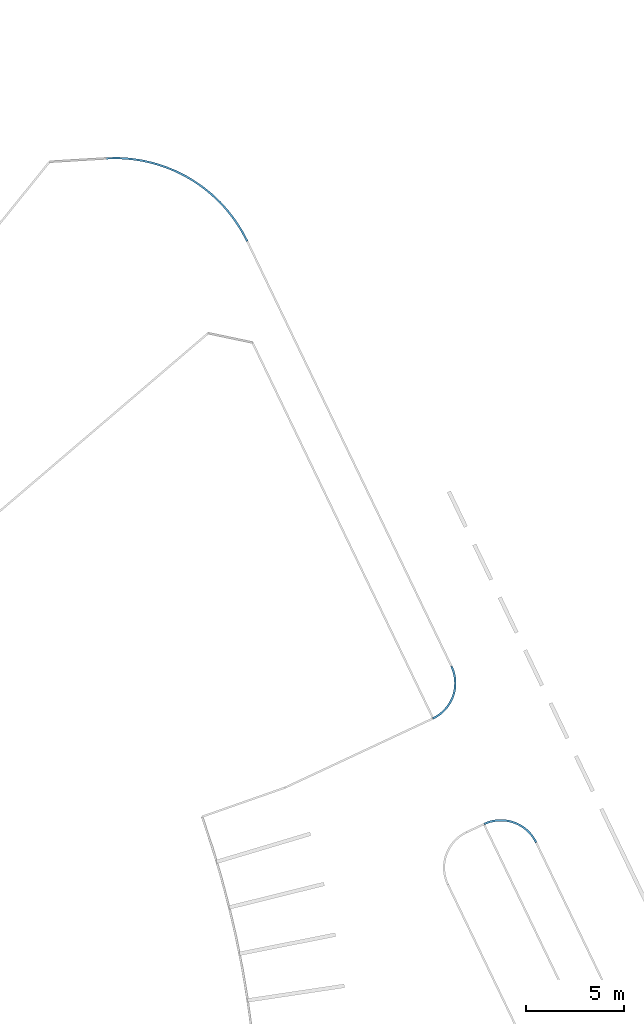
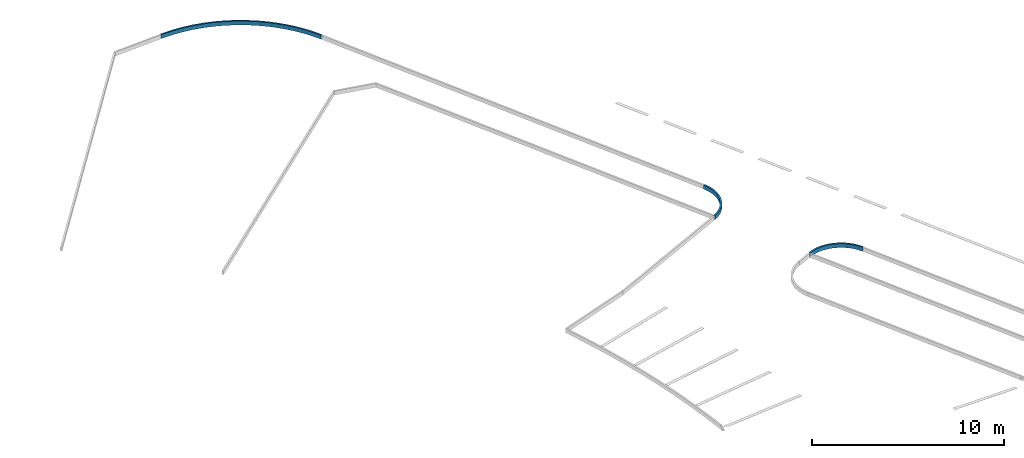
# One storey, part 118 of 157: 3 beams.
"""IFC2X3 building model written with IfcOpenShell, lengths in millimetres."""

from ifc_helpers import new_model, entity, si_unit, converted_unit, derived_unit, direction, frame, origin, place, context, subcontext, project, spatial, faceted_brep, material, type_object, element, save


model = new_model("IFC2X3")

# Units and contexts
model_context = context("Model", 3, precision=0.01, world=origin(), true_north=direction((6.123031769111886e-17, 1.0)))
body_context = subcontext(model_context, "Body", "Model", "MODEL_VIEW")
ifc_project = project(units=[si_unit("LENGTHUNIT", "METRE", prefix="MILLI"), si_unit("AREAUNIT", "SQUARE_METRE"), si_unit("VOLUMEUNIT", "CUBIC_METRE"), converted_unit("PLANEANGLEUNIT", "DEGREE", entity("IfcRatioMeasure", 0.017453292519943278), si_unit("PLANEANGLEUNIT", "RADIAN"), dimensions=[0, 0, 0, 0, 0, 0, 0]), si_unit("MASSUNIT", "GRAM", prefix="KILO"), derived_unit("MASSDENSITYUNIT", [(si_unit("MASSUNIT", "GRAM", prefix="KILO"), 1), (si_unit("LENGTHUNIT", "METRE"), -3)]), derived_unit("MOMENTOFINERTIAUNIT", [(si_unit("LENGTHUNIT", "METRE"), 4)]), si_unit("TIMEUNIT", "SECOND"), si_unit("FREQUENCYUNIT", "HERTZ"), si_unit("THERMODYNAMICTEMPERATUREUNIT", "DEGREE_CELSIUS"), derived_unit("THERMALTRANSMITTANCEUNIT", [(si_unit("MASSUNIT", "GRAM", prefix="KILO"), 1), (si_unit("THERMODYNAMICTEMPERATUREUNIT", "KELVIN"), -1), (si_unit("TIMEUNIT", "SECOND"), -3)]), derived_unit("THERMALCONDUCTANCEUNIT", [(si_unit("MASSUNIT", "GRAM", prefix="KILO"), 1), (si_unit("LENGTHUNIT", "METRE"), 1), (si_unit("THERMODYNAMICTEMPERATUREUNIT", "KELVIN"), -1), (si_unit("TIMEUNIT", "SECOND"), -3)]), derived_unit("VOLUMETRICFLOWRATEUNIT", [(si_unit("LENGTHUNIT", "METRE"), 3), (si_unit("TIMEUNIT", "SECOND"), -1)]), derived_unit("MASSFLOWRATEUNIT", [(si_unit("MASSUNIT", "GRAM", prefix="KILO"), 1), (si_unit("TIMEUNIT", "SECOND"), -1)]), derived_unit("ROTATIONALFREQUENCYUNIT", [(si_unit("TIMEUNIT", "SECOND"), -1)]), si_unit("ELECTRICCURRENTUNIT", "AMPERE"), si_unit("ELECTRICVOLTAGEUNIT", "VOLT"), si_unit("POWERUNIT", "WATT"), converted_unit("FORCEUNIT", "KIP", entity("IfcRatioMeasure", 2.088543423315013e-05), si_unit("FORCEUNIT", "NEWTON"), dimensions=[1, 1, -2, 0, 0, 0, 0]), si_unit("ILLUMINANCEUNIT", "LUX"), si_unit("LUMINOUSFLUXUNIT", "LUMEN"), si_unit("LUMINOUSINTENSITYUNIT", "CANDELA"), derived_unit("USERDEFINED", [(si_unit("MASSUNIT", "GRAM", prefix="KILO"), -1), (si_unit("LENGTHUNIT", "METRE"), -2), (si_unit("TIMEUNIT", "SECOND"), 3), (si_unit("LUMINOUSFLUXUNIT", "LUMEN"), 1)]), derived_unit("USERDEFINED", [(si_unit("MASSUNIT", "GRAM", prefix="KILO"), 1), (si_unit("LENGTHUNIT", "METRE"), 3), (si_unit("TIMEUNIT", "SECOND"), -3), (si_unit("ELECTRICCURRENTUNIT", "AMPERE"), -2)]), derived_unit("USERDEFINED", [(si_unit("LENGTHUNIT", "METRE"), 2), (si_unit("TIMEUNIT", "SECOND"), -2)]), derived_unit("SOUNDPOWERUNIT", [(si_unit("MASSUNIT", "GRAM", prefix="KILO"), 1), (si_unit("LENGTHUNIT", "METRE"), 2), (si_unit("TIMEUNIT", "SECOND"), -3)]), derived_unit("SOUNDPRESSUREUNIT", [(si_unit("MASSUNIT", "GRAM", prefix="KILO"), 1), (si_unit("LENGTHUNIT", "METRE"), -1), (si_unit("TIMEUNIT", "SECOND"), -2)]), derived_unit("LINEARVELOCITYUNIT", [(si_unit("LENGTHUNIT", "METRE"), 1), (si_unit("TIMEUNIT", "SECOND"), -1)]), si_unit("PRESSUREUNIT", "PASCAL"), derived_unit("USERDEFINED", [(si_unit("LENGTHUNIT", "METRE"), -2), (si_unit("MASSUNIT", "GRAM", prefix="KILO"), 1), (si_unit("TIMEUNIT", "SECOND"), -2)]), derived_unit("LINEARFORCEUNIT", [(si_unit("MASSUNIT", "GRAM", prefix="KILO"), 1), (si_unit("LENGTHUNIT", "METRE"), 1), (si_unit("TIMEUNIT", "SECOND"), -2), (si_unit("LENGTHUNIT", "METRE"), -1)]), derived_unit("PLANARFORCEUNIT", [(si_unit("MASSUNIT", "GRAM", prefix="KILO"), 1), (si_unit("LENGTHUNIT", "METRE"), 1), (si_unit("TIMEUNIT", "SECOND"), -2), (si_unit("LENGTHUNIT", "METRE"), -2)]), derived_unit("SPECIFICHEATCAPACITYUNIT", [(si_unit("LENGTHUNIT", "METRE"), 2), (si_unit("TIMEUNIT", "SECOND"), -2), (si_unit("THERMODYNAMICTEMPERATUREUNIT", "KELVIN"), -1)]), derived_unit("VAPORPERMEABILITYUNIT", [(si_unit("TIMEUNIT", "SECOND"), 1), (si_unit("LENGTHUNIT", "METRE"), -1)]), derived_unit("DYNAMICVISCOSITYUNIT", [(si_unit("MASSUNIT", "GRAM", prefix="KILO"), 1), (si_unit("LENGTHUNIT", "METRE"), -1), (si_unit("TIMEUNIT", "SECOND"), -1)]), derived_unit("THERMALEXPANSIONCOEFFICIENTUNIT", [(si_unit("THERMODYNAMICTEMPERATUREUNIT", "KELVIN"), -1)])], contexts=[model_context])

# Site, building, storey
site_placement = place(None, frame((0.0, 0.0, 0.0), z_axis=(0.0, 0.0, 1.0), x_axis=(0.8191520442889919, 0.5735764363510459, 0.0)))
site = spatial("IfcSite", under=ifc_project, at=site_placement, Name="Default", CompositionType="ELEMENT")
building_placement = place(site_placement, origin())
building = spatial("IfcBuilding", under=site, at=building_placement, CompositionType="ELEMENT")
storey_placement = place(building_placement, origin())
storey = spatial("IfcBuildingStorey", under=building, at=storey_placement, Name="1.EG +0.00", CompositionType="ELEMENT", Elevation=-4.331468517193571e-12)

# Beams
ifc_material = material(Name="Paveta_bordur")
beam_type_1 = type_object("IfcBeamType", Name="Beam-143", PredefinedType="NOTDEFINED")
beam_1_placement = place(storey_placement, frame((24529.94183142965, -59084.03622694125, 260.0)))
element("IfcBeam", 1, at=beam_1_placement, inside=storey, type_object=beam_type_1, material=ifc_material, Name="Beam-143:Beam-143", ObjectType="Beam-143:Beam-143", context=body_context, shape_type="Brep", body=[
    faceted_brep([(3453.7379577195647, 17.81459195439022, 250.0), (3453.7379577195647, 17.81459195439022, 0.0), (3552.413859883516, 1.5952722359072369, 0.0), (3552.413859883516, 1.5952722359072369, 250.0), (53.93368868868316, 7659.485015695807, 0.0), (1.5952722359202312, 7574.275332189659, 0.0), (1.5952722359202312, 7574.275332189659, 250.0), (53.93368868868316, 7659.485015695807, 250.0), (2020.2235835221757, 5751.82134745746, 0.0), (1830.7533936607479, 5989.375032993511, 0.0), (1631.7538229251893, 6219.0049030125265, 0.0), (1423.5559153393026, 6440.328958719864, 0.0), (1206.5060167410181, 6652.979018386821, 0.0), (980.9651986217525, 6856.601329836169, 0.0), (747.3086574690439, 7050.857158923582, 0.0), (505.925090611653, 7235.4233530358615, 0.0), (257.21604960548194, 7409.992878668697, 0.0), (565.0330348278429, 7316.08468782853, 0.0), (1046.4495201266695, 6932.177805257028, 0.0), (1494.98105183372, 6510.31788553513, 0.0), (1907.6442681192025, 6053.310886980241, 0.0), (2281.6943816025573, 5564.196545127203, 0.0), (2614.643436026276, 5046.228154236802, 0.0), (2904.2768546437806, 4502.850928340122, 0.0), (3032.236561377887, 4222.75749409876, 0.0), (3253.377992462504, 3648.0899430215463, 0.0), (3426.955309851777, 3057.3131309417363, 0.0), (3551.8139816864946, 2454.35654969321, 0.0), (3627.1235232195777, 1843.2307036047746, 0.0), (3652.383020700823, 1228.0004340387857, 0.0), (3627.4244631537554, 612.7578825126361, 0.0), (3496.89704029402, 318.59358049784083, 0.0), (3527.7550430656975, 620.8823332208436, 0.0), (3546.260632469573, 924.1779802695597, 0.0), (3552.3830236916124, 1227.9759767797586, 0.0), (3546.1120318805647, 1531.770942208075, 0.0), (3527.4580890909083, 1835.0575010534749, 0.0), (3496.452226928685, 2137.331123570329, 0.0), (3453.1460249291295, 2438.08896507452, 0.0), (3397.6115247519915, 2736.830702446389, 0.0), (3329.941110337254, 3033.0593664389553, 0.0), (3250.247354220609, 3326.2821684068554, 0.0), (3158.662830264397, 3616.0113200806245, 0.0), (3055.339893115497, 3901.7648450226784, 0.0), (2940.45042475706, 4183.067380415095, 0.0), (2814.1855485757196, 4459.450967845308, 0.0), (2676.755311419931, 4730.455831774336, 0.0), (2528.388334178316, 4995.631144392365, 0.0), (2369.331431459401, 5254.535775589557, 0.0), (2199.8492010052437, 5506.739026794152, 0.0), (3652.383020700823, 1228.0004340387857, 250.0), (3627.4244631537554, 612.7578825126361, 250.0), (3627.1235232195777, 1843.2307036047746, 250.0), (3253.3779924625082, 3648.0899430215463, 250.0), (3426.9553098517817, 3057.3131309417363, 250.0), (3551.8139816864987, 2454.35654969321, 250.0), (3032.2365613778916, 4222.75749409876, 250.0), (2904.276854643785, 4502.850928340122, 250.0), (2614.643436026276, 5046.22815423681, 250.0), (2281.6943816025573, 5564.196545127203, 250.0), (1907.6442681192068, 6053.310886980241, 250.0), (565.0330348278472, 7316.08468782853, 250.0), (1046.4495201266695, 6932.177805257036, 250.0), (1494.98105183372, 6510.317885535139, 250.0), (2199.8492010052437, 5506.739026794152, 250.0), (2369.331431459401, 5254.535775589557, 250.0), (2528.388334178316, 4995.631144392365, 250.0), (2676.755311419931, 4730.455831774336, 250.0), (2814.1855485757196, 4459.450967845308, 250.0), (2940.45042475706, 4183.067380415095, 250.0), (3055.339893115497, 3901.7648450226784, 250.0), (3158.662830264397, 3616.0113200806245, 250.0), (3250.247354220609, 3326.2821684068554, 250.0), (3329.941110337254, 3033.0593664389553, 250.0), (3397.6115247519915, 2736.830702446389, 250.0), (3453.1460249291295, 2438.08896507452, 250.0), (3496.452226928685, 2137.331123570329, 250.0), (3527.4580890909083, 1835.0575010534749, 250.0), (3546.1120318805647, 1531.770942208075, 250.0), (3552.3830236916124, 1227.9759767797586, 250.0), (3546.260632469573, 924.1779802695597, 250.0), (3527.7550430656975, 620.8823332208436, 250.0), (3496.89704029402, 318.59358049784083, 250.0), (257.21604960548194, 7409.992878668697, 250.0), (505.925090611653, 7235.4233530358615, 250.0), (747.3086574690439, 7050.857158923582, 250.0), (980.9651986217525, 6856.601329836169, 250.0), (1206.5060167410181, 6652.979018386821, 250.0), (1423.5559153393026, 6440.328958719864, 250.0), (1631.7538229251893, 6219.0049030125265, 250.0), (1830.7533936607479, 5989.375032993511, 250.0), (2020.2235835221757, 5751.82134745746, 250.0)], [[[0, 1, 2, 3]], [[4, 5, 6, 7]], [[8, 9, 10, 11, 12, 13, 14, 15, 16, 5, 4, 17, 18, 19, 20, 21, 22, 23, 24, 25, 26, 27, 28, 29, 30, 2, 1, 31, 32, 33, 34, 35, 36, 37, 38, 39, 40, 41, 42, 43, 44, 45, 46, 47, 48, 49]], [[30, 29, 50, 51]], [[29, 28, 52, 50]], [[2, 30, 51, 3]], [[26, 25, 53, 54]], [[55, 27, 26, 54]], [[52, 28, 27, 55]], [[53, 25, 24, 56]], [[24, 23, 57, 56]], [[58, 22, 21, 59]], [[57, 23, 22, 58]], [[59, 21, 20, 60]], [[18, 17, 61, 62]], [[63, 19, 18, 62]], [[60, 20, 19, 63]], [[61, 17, 4, 7]], [[64, 65, 66, 67, 68, 69, 70, 71, 72, 73, 74, 75, 76, 77, 78, 79, 80, 81, 82, 0, 3, 51, 50, 52, 55, 54, 53, 56, 57, 58, 59, 60, 63, 62, 61, 7, 6, 83, 84, 85, 86, 87, 88, 89, 90, 91]], [[35, 34, 79, 78]], [[32, 31, 82, 81]], [[34, 33, 80, 79]], [[1, 0, 82, 31]], [[36, 35, 78, 77]], [[33, 32, 81, 80]], [[41, 40, 73, 72]], [[42, 41, 72, 71]], [[43, 42, 71, 70]], [[38, 37, 76, 75]], [[75, 74, 39, 38]], [[40, 39, 74, 73]], [[77, 76, 37, 36]], [[44, 43, 70, 69]], [[69, 68, 45, 44]], [[48, 65, 64, 49]], [[49, 64, 91, 8]], [[46, 45, 68, 67]], [[47, 46, 67, 66]], [[47, 66, 65, 48]], [[9, 8, 91, 90]], [[14, 13, 86, 85]], [[15, 14, 85, 84]], [[16, 15, 84, 83]], [[11, 10, 89, 88]], [[88, 87, 12, 11]], [[13, 12, 87, 86]], [[90, 89, 10, 9]], [[5, 16, 83, 6]]]),
])
beam_type_2 = type_object("IfcBeamType", Name="Beam-137", PredefinedType="NOTDEFINED")
beam_2_placement = place(storey_placement, frame((20860.684871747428, -92749.13008323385, 260.0)))
element("IfcBeam", 2, at=beam_2_placement, inside=storey, type_object=beam_type_2, material=ifc_material, Name="Beam-137:Beam-137", ObjectType="Beam-137:Beam-137", context=body_context, shape_type="Brep", body=[
    faceted_brep([(1589.4661306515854, 17.813420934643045, 250.0), (1589.4661306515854, 17.813420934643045, 0.0), (1688.1422252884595, 1.5952722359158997, 0.0), (1688.1422252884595, 1.5952722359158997, 250.0), (18.84209208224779, 2353.3482477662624, 0.0), (1.5952722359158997, 2254.8467391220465, 0.0), (1.5952722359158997, 2254.8467391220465, 250.0), (18.84209208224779, 2353.3482477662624, 250.0), (1016.1910879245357, 1875.9964391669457, 0.0), (1132.2582124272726, 1766.0176091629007, 0.0), (1239.4006357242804, 1647.3271648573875, 0.0), (1336.96653109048, 1520.6471881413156, 0.0), (1424.3623329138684, 1386.7483671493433, 0.0), (1501.0563477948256, 1246.44530759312, 0.0), (1566.5819892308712, 1100.5915769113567, 0.0), (1620.5406162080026, 950.0745113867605, 0.0), (1662.6039584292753, 795.8098178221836, 0.0), (1692.516113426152, 638.7360026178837, 0.0), (1710.0951034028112, 479.8086621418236, 0.0), (1715.2339823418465, 319.9946691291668, 0.0), (1707.9014866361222, 160.26629047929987, 0.0), (1608.261525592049, 168.74438950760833, 0.0), (1615.23633858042, 320.68113993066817, 0.0), (1610.3481366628, 472.69932840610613, 0.0), (1593.6266583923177, 623.8741156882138, 0.0), (1565.1736329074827, 773.285793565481, 0.0), (1525.1621610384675, 920.0253801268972, 0.0), (1473.835662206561, 1063.2001497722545, 0.0), (1411.5063935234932, 1201.9390643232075, 0.0), (1338.5535501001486, 1335.3980721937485, 0.0), (1255.4209581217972, 1462.7652433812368, 0.0), (1162.6143747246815, 1583.2657090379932, 0.0), (1060.698411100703, 1696.1663755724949, 0.0), (950.2930975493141, 1800.7803846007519, 0.0), (832.0701113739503, 1896.4712916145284, 0.0), (706.7486905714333, 1982.656937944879, 0.0), (575.0912581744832, 2058.8129924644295, 0.0), (437.8987838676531, 2124.4761414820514, 0.0), (296.0059110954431, 2179.2469074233, 0.0), (150.27587930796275, 2222.7920791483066, 0.0), (175.14734567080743, 2319.6497590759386, 0.0), (328.35071242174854, 2273.8715016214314, 0.0), (477.52014277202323, 2216.291978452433, 0.0), (621.7481285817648, 2147.261488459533, 0.0), (760.1572241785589, 2067.199995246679, 0.0), (891.9053845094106, 1976.594572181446, 0.0), (1707.9014866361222, 160.26629047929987, 250.0), (1715.2339823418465, 319.9946691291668, 250.0), (1710.0951034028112, 479.8086621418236, 250.0), (1424.3623329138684, 1386.7483671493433, 250.0), (1501.0563477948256, 1246.44530759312, 250.0), (1620.5406162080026, 950.0745113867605, 250.0), (1566.5819892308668, 1100.5915769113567, 250.0), (1662.603958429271, 795.8098178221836, 250.0), (1336.9665310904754, 1520.6471881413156, 250.0), (1692.516113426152, 638.7360026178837, 250.0), (1016.1910879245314, 1875.9964391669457, 250.0), (891.9053845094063, 1976.594572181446, 250.0), (1239.400635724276, 1647.3271648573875, 250.0), (1132.2582124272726, 1766.0176091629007, 250.0), (760.1572241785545, 2067.199995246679, 250.0), (175.14734567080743, 2319.6497590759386, 250.0), (328.35071242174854, 2273.8715016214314, 250.0), (621.7481285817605, 2147.261488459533, 250.0), (477.5201427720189, 2216.291978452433, 250.0), (832.0701113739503, 1896.4712916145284, 250.0), (950.2930975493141, 1800.7803846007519, 250.0), (1060.698411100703, 1696.1663755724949, 250.0), (1162.6143747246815, 1583.2657090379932, 250.0), (1255.4209581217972, 1462.7652433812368, 250.0), (1338.5535501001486, 1335.3980721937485, 250.0), (1411.5063935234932, 1201.9390643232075, 250.0), (1473.835662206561, 1063.2001497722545, 250.0), (1525.1621610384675, 920.0253801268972, 250.0), (1565.1736329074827, 773.285793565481, 250.0), (1593.6266583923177, 623.8741156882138, 250.0), (1610.3481366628, 472.69932840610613, 250.0), (1615.23633858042, 320.68113993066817, 250.0), (1608.261525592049, 168.74438950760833, 250.0), (150.27587930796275, 2222.7920791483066, 250.0), (296.0059110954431, 2179.2469074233, 250.0), (437.8987838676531, 2124.4761414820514, 250.0), (575.0912581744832, 2058.8129924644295, 250.0), (706.7486905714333, 1982.656937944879, 250.0)], [[[0, 1, 2, 3]], [[4, 5, 6, 7]], [[8, 9, 10, 11, 12, 13, 14, 15, 16, 17, 18, 19, 20, 2, 1, 21, 22, 23, 24, 25, 26, 27, 28, 29, 30, 31, 32, 33, 34, 35, 36, 37, 38, 39, 5, 4, 40, 41, 42, 43, 44, 45]], [[46, 3, 2, 20]], [[20, 19, 47, 46]], [[18, 48, 47, 19]], [[13, 12, 49, 50]], [[51, 15, 14, 52]], [[52, 14, 13, 50]], [[15, 51, 53, 16]], [[49, 12, 11, 54]], [[48, 18, 17, 55]], [[55, 17, 16, 53]], [[56, 8, 45, 57]], [[58, 10, 9, 59]], [[8, 56, 59, 9]], [[57, 45, 44, 60]], [[41, 40, 61, 62]], [[63, 43, 42, 64]], [[64, 42, 41, 62]], [[44, 43, 63, 60]], [[61, 40, 4, 7]], [[54, 11, 10, 58]], [[65, 66, 67, 68, 69, 70, 71, 72, 73, 74, 75, 76, 77, 78, 0, 3, 46, 47, 48, 55, 53, 51, 52, 50, 49, 54, 58, 59, 56, 57, 60, 63, 64, 62, 61, 7, 6, 79, 80, 81, 82, 83]], [[21, 1, 0, 78]], [[77, 22, 21, 78]], [[22, 77, 76, 23]], [[71, 70, 29, 28]], [[27, 26, 73, 72]], [[28, 27, 72, 71]], [[25, 74, 73, 26]], [[30, 29, 70, 69]], [[75, 24, 23, 76]], [[24, 75, 74, 25]], [[34, 33, 66, 65]], [[32, 31, 68, 67]], [[32, 67, 66, 33]], [[35, 34, 65, 83]], [[80, 79, 39, 38]], [[37, 36, 82, 81]], [[38, 37, 81, 80]], [[83, 82, 36, 35]], [[5, 39, 79, 6]], [[68, 31, 30, 69]]]),
])
beam_type_3 = type_object("IfcBeamType", Name="Beam-143", PredefinedType="NOTDEFINED")
beam_3_placement = place(storey_placement, frame((21792.842044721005, -84598.00349405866, 260.0)))
element("IfcBeam", 3, at=beam_3_placement, inside=storey, type_object=beam_type_3, material=ifc_material, Name="Beam-143 236867:Beam-143 236867", ObjectType="Beam-143 236867:Beam-143 236867", context=body_context, shape_type="Brep", body=[
    faceted_brep([(18.842092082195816, 130.2857177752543, 250.0), (18.842092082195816, 130.2857177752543, 0.0), (1.5952722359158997, 31.784209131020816, 0.0), (1.5952722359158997, 31.784209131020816, 250.0), (2378.011073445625, 1718.5690821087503, 0.0), (2279.3351712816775, 1734.7884018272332, 0.0), (2279.3351712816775, 1734.7884018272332, 250.0), (2378.011073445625, 1718.5690821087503, 250.0), (1936.2281359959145, 746.1866022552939, 0.0), (1833.5888386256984, 630.9476698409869, 0.0), (1722.5715141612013, 523.7562962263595, 0.0), (1603.8052784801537, 425.2199162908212, 0.0), (1477.963159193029, 335.89691856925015, 0.0), (1345.7582817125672, 256.2934809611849, 0.0), (1207.9398280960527, 186.86070230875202, 0.0), (1065.2887915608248, 127.99204609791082, 0.0), (918.613550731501, 80.02111076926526, 0.0), (768.7452886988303, 43.21973927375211, 0.0), (616.5332828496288, 17.796478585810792, 0.0), (462.8400921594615, 3.8953979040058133, 0.0), (308.5366692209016, 1.5952722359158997, 0.0), (154.49742470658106, 10.909135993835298, 0.0), (171.59305624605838, 109.72410916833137, 0.0), (325.49080088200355, 101.29078257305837, 0.0), (479.57386933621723, 105.03842412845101, 0.0), (632.8796471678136, 120.94362091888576, 0.0), (784.4503759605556, 148.90700724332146, 0.0), (933.3391367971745, 188.753885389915, 0.0), (1078.6157660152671, 240.23531703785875, 0.0), (1219.3726662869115, 303.029678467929, 0.0), (1354.7304767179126, 376.7446698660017, 0.0), (1483.8435665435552, 460.91976616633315, 0.0), (1605.9053180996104, 555.0290941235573, 0.0), (1720.1531660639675, 658.4847176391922, 0.0), (1825.8733614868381, 770.6403108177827, 0.0), (1922.405430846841, 890.7951958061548, 0.0), (2009.1463022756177, 1018.1987201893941, 0.0), (2085.5540731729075, 1152.0549465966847, 0.0), (2151.1513956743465, 1291.5276252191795, 0.0), (2205.5284588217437, 1435.7454181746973, 0.0), (2248.3455488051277, 1583.807343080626, 0.0), (2347.2674771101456, 1567.341874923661, 0.0), (2305.234926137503, 1418.8558433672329, 0.0), (2252.151611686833, 1273.9524319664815, 0.0), (2188.318347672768, 1133.4527831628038, 0.0), (2114.096866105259, 998.1530840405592, 0.0), (2029.9077672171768, 868.8200544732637, 0.0), (154.49742470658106, 10.909135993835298, 250.0), (462.8400921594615, 3.8953979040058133, 250.0), (308.5366692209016, 1.5952722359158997, 250.0), (616.5332828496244, 17.796478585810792, 250.0), (1065.2887915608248, 127.99204609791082, 250.0), (1207.9398280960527, 186.86070230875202, 250.0), (1345.7582817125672, 256.2934809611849, 250.0), (768.7452886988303, 43.21973927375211, 250.0), (918.613550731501, 80.02111076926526, 250.0), (1477.963159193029, 335.89691856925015, 250.0), (1603.8052784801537, 425.2199162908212, 250.0), (1833.5888386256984, 630.9476698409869, 250.0), (1936.2281359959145, 746.1866022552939, 250.0), (1722.5715141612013, 523.7562962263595, 250.0), (2029.9077672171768, 868.8200544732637, 250.0), (2252.151611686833, 1273.9524319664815, 250.0), (2305.234926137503, 1418.8558433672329, 250.0), (2347.2674771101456, 1567.341874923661, 250.0), (2114.096866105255, 998.1530840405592, 250.0), (2188.318347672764, 1133.4527831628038, 250.0), (1922.405430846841, 890.7951958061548, 250.0), (1825.8733614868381, 770.6403108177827, 250.0), (1720.1531660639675, 658.4847176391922, 250.0), (1605.9053180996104, 555.0290941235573, 250.0), (1483.8435665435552, 460.91976616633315, 250.0), (1354.7304767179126, 376.7446698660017, 250.0), (1219.3726662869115, 303.029678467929, 250.0), (1078.6157660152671, 240.23531703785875, 250.0), (933.3391367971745, 188.753885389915, 250.0), (784.4503759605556, 148.90700724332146, 250.0), (632.8796471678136, 120.94362091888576, 250.0), (479.57386933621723, 105.03842412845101, 250.0), (325.49080088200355, 101.29078257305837, 250.0), (171.59305624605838, 109.72410916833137, 250.0), (2248.3455488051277, 1583.807343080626, 250.0), (2205.5284588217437, 1435.7454181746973, 250.0), (2151.1513956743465, 1291.5276252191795, 250.0), (2085.5540731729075, 1152.0549465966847, 250.0), (2009.1463022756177, 1018.1987201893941, 250.0)], [[[0, 1, 2, 3]], [[4, 5, 6, 7]], [[8, 9, 10, 11, 12, 13, 14, 15, 16, 17, 18, 19, 20, 21, 2, 1, 22, 23, 24, 25, 26, 27, 28, 29, 30, 31, 32, 33, 34, 35, 36, 37, 38, 39, 40, 5, 4, 41, 42, 43, 44, 45, 46]], [[47, 3, 2, 21]], [[48, 49, 20, 19]], [[20, 49, 47, 21]], [[18, 50, 48, 19]], [[51, 15, 14, 52]], [[52, 14, 13, 53]], [[54, 17, 16, 55]], [[15, 51, 55, 16]], [[17, 54, 50, 18]], [[53, 13, 12, 56]], [[12, 11, 57, 56]], [[58, 9, 8, 59]], [[57, 11, 10, 60]], [[9, 58, 60, 10]], [[59, 8, 46, 61]], [[62, 43, 42, 63]], [[63, 42, 41, 64]], [[65, 45, 44, 66]], [[66, 44, 43, 62]], [[45, 65, 61, 46]], [[64, 41, 4, 7]], [[67, 68, 69, 70, 71, 72, 73, 74, 75, 76, 77, 78, 79, 80, 0, 3, 47, 49, 48, 50, 54, 55, 51, 52, 53, 56, 57, 60, 58, 59, 61, 65, 66, 62, 63, 64, 7, 6, 81, 82, 83, 84, 85]], [[22, 1, 0, 80]], [[79, 23, 22, 80]], [[23, 79, 78, 24]], [[73, 72, 30, 29]], [[28, 27, 75, 74]], [[29, 28, 74, 73]], [[26, 76, 75, 27]], [[31, 30, 72, 71]], [[77, 25, 24, 78]], [[25, 77, 76, 26]], [[35, 34, 68, 67]], [[33, 32, 70, 69]], [[33, 69, 68, 34]], [[36, 35, 67, 85]], [[82, 81, 40, 39]], [[38, 37, 84, 83]], [[39, 38, 83, 82]], [[85, 84, 37, 36]], [[5, 40, 81, 6]], [[70, 32, 31, 71]]]),
])

save(model, "model.ifc")
